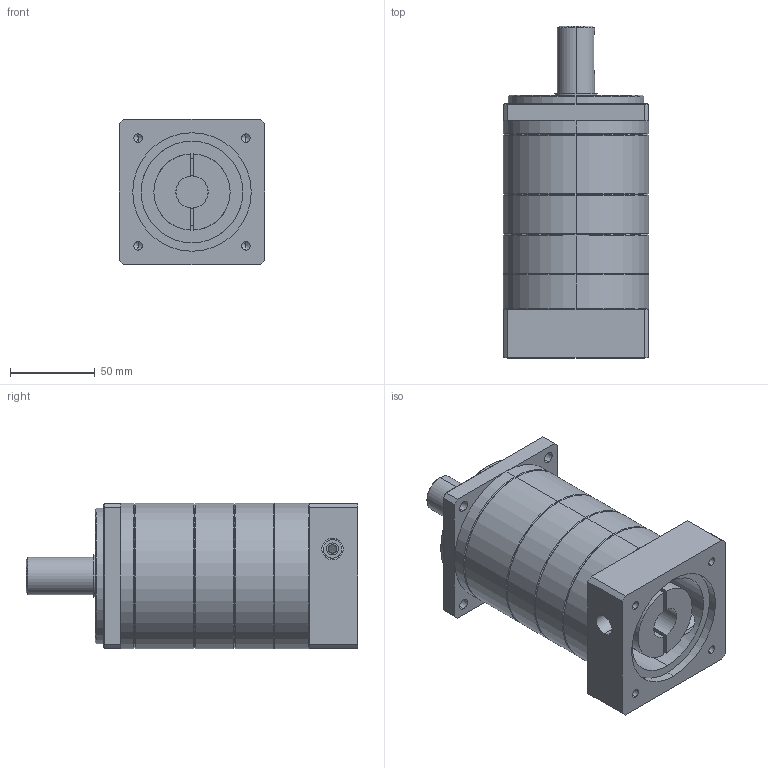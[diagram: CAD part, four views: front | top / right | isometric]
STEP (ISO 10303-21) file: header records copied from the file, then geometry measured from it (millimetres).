
FILE_DESCRIPTION (( 'STEP AP203' ), '1' );
FILE_NAME ('MF90X-L3£r70PCD£r90M6.STEP', '2018-08-29T02:00:22', ( 'KELLY' ), ( '' ), 'SwSTEP 2.0', 'SolidWorks 2012', '' );
FILE_SCHEMA (( 'CONFIG_CONTROL_DESIGN' ));
Length unit declared in the file: millimetre
Products named in the file (1): MF90X-L3｣r70PCD｣r90M6
Bounding box: 86 x 196 x 86 mm (x, y, z)
Volume: 877888.5 mm3; surface area: 121422.9 mm2
Topology: 5 solids, 5 shells, 152 faces, 354 edges, 215 vertices
Faces by surface type: cylinder 70, plane 46, cone 36
Entity records: 4867 total; most frequent: CARTESIAN_POINT 1246, DIRECTION 788, ORIENTED_EDGE 688, EDGE_CURVE 344, AXIS2_PLACEMENT_3D 313, VERTEX_POINT 215, EDGE_LOOP 187, LINE 162
